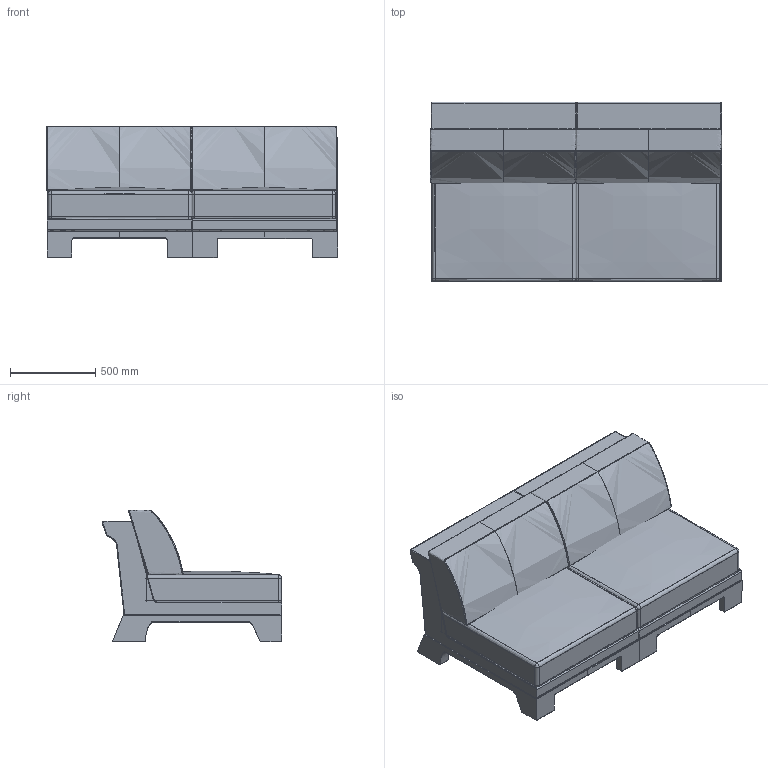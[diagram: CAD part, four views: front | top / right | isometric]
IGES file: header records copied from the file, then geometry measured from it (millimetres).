
Global section: file name: C:\Users\market02\Desktop\RYAN\PATT\FPATTCOM001_COMPOSITION 1_PATT\exportation\FPATTCOM001_COMPOSITION 1_PATT.igs; native system: Rhinoceros ( Dec 14 2021 ); preprocessor: Trout Lake IGES 012 Dec 14 2021; date: 220131.093902; units: millimetre
Bounding box: 1703.93 x 1050.79 x 768.64 mm (x, y, z)
Surface area: 15647724.1 mm2 (no closed solid volume)
Topology: 0 solids, 0 shells, 334 faces, 3590 edges, 3586 vertices
Faces by surface type: bspline 334
